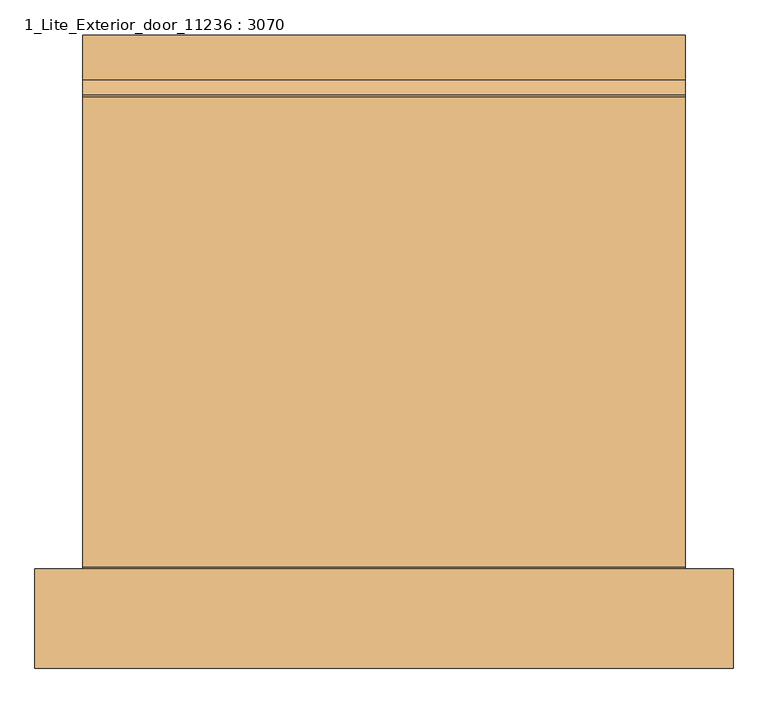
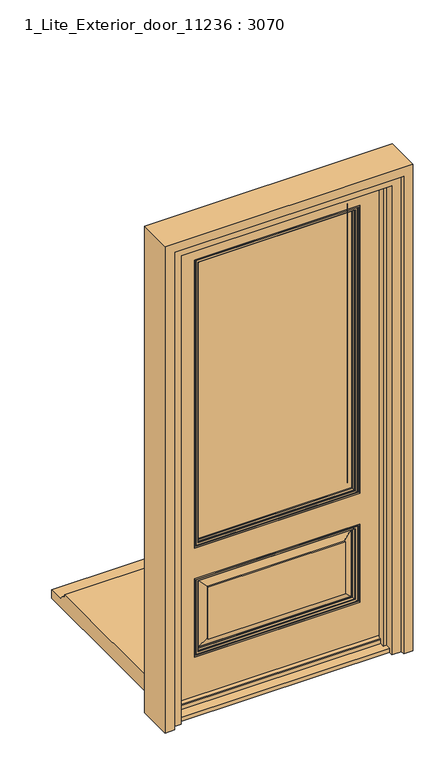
"""IFC4 building model written with IfcOpenShell, lengths in millimetres: door geometry, 1_Lite_Exterior_door_11236 : 3070."""

from ifc_helpers import new_model, si_unit, point, frame, frame_2d, origin, place, context, project, spatial, polyline, circle_curve, ellipse_curve, trimmed, segment, composite_curve, outline, extrude, faceted_brep, source, transform, mapped, element, save
from ifc_brep_helpers import plane_surface, cylinder_surface, advanced_brep


def door_1_lite_exterior_door_11236_3070_4d0df540(model_context):
    return source(origin(), model_context, "Body", "SolidModel", [
        advanced_brep(
        [(355.6, 12.7, 723.9), (355.6, 76.2, 723.9), (355.6, 76.2, 2032.0), (355.6, 12.7, 2032.0), (349.25, 17.74112, 730.25), (349.25, 12.7, 730.25), (349.25, 12.7, 2025.65), (349.25, 17.74112, 2025.65), (346.9560106, 15.4471305, 732.5439894), (346.9560106, 15.4471305, 2023.3560106), (338.7694125, 18.2331323, 740.7305875), (338.7694125, 15.4471305, 740.7305875), (338.7694125, 15.4471305, 2015.1694125), (338.7694125, 18.2331323, 2015.1694125), (335.932591, 18.9956227, 743.567409), (337.7298548, 18.2331323, 741.7701452), (337.7298548, 18.2331323, 2014.1298548), (335.932591, 18.9956227, 2012.332591), (332.9205864, 25.9688031, 746.5794136), (332.9205864, 25.9688031, 2009.3205864), (331.1191455, 30.1625, 748.3808545), (331.1191455, 25.9688031, 748.3808545), (331.1191455, 25.9688031, 2007.5191455), (331.1191455, 30.1625, 2007.5191455), (349.25, 58.7375, 730.25), (349.25, 30.1625, 730.25), (349.25, 30.1625, 2025.65), (349.25, 58.7375, 2025.65), (331.3790349, 63.1711196, 748.1209651), (331.3790349, 58.7375, 748.1209651), (331.3790349, 58.7375, 2007.7790349), (331.3790349, 63.1711196, 2007.7790349), (332.2428928, 63.8640585, 747.2571072), (332.2428928, 63.8640585, 2008.6428928), (334.1792523, 68.8820693, 745.3207477), (333.1653174, 63.8640585, 746.3346826), (333.1653174, 63.8640585, 2009.5653174), (334.1792523, 68.8820693, 2010.5792523), (337.7518172, 72.169021, 741.7481828), (337.7518172, 72.169021, 2014.1518172), (338.7401292, 76.2, 740.7598708), (338.7401292, 72.169021, 740.7598708), (338.7401292, 72.169021, 2015.1401292), (338.7401292, 76.2, 2015.1401292), (-355.6, 76.2, 2032.0), (-355.6, 12.7, 2032.0), (-349.25, 12.7, 2025.65), (-349.25, 17.74112, 2025.65), (-346.9560106, 15.4471305, 2023.3560106), (-338.7694125, 15.4471305, 2015.1694125), (-338.7694125, 18.2331323, 2015.1694125), (-337.7298548, 18.2331323, 2014.1298548), (-335.932591, 18.9956227, 2012.332591), (-332.9205864, 25.9688031, 2009.3205864), (-331.1191455, 25.9688031, 2007.5191455), (-331.1191455, 30.1625, 2007.5191455), (-349.25, 30.1625, 2025.65), (-349.25, 58.7375, 2025.65), (-331.3790349, 58.7375, 2007.7790349), (-331.3790349, 63.1711196, 2007.7790349), (-332.2428928, 63.8640585, 2008.6428928), (-333.1653174, 63.8640585, 2009.5653174), (-334.1792523, 68.8820693, 2010.5792523), (-337.7518172, 72.169021, 2014.1518172), (-338.7401292, 72.169021, 2015.1401292), (-338.7401292, 76.2, 2015.1401292), (-355.6, 76.2, 723.9), (-355.6, 12.7, 723.9), (-349.25, 12.7, 730.25), (-349.25, 17.74112, 730.25), (-346.9560106, 15.4471305, 732.5439894), (-338.7694125, 15.4471305, 740.7305875), (-338.7694125, 18.2331323, 740.7305875), (-337.7298548, 18.2331323, 741.7701452), (-335.932591, 18.9956227, 743.567409), (-332.9205864, 25.9688031, 746.5794136), (-331.1191455, 25.9688031, 748.3808545), (-331.1191455, 30.1625, 748.3808545), (-349.25, 30.1625, 730.25), (-349.25, 58.7375, 730.25), (-331.3790349, 58.7375, 748.1209651), (-331.3790349, 63.1711196, 748.1209651), (-332.2428928, 63.8640585, 747.2571072), (-333.1653174, 63.8640585, 746.3346826), (-334.1792523, 68.8820693, 745.3207477), (-337.7518172, 72.169021, 741.7481828), (-338.7401292, 72.169021, 740.7598708), (-338.7401292, 76.2, 740.7598708)],
        [
            (0, 1),
            (1, 2),
            (2, 3),
            (3, 0),
            (4, 5),
            (5, 6),
            (6, 7),
            (7, 4),
            (8, 4),
            (7, 9),
            (9, 8),
            (10, 11),
            (11, 12),
            (12, 13),
            (13, 10),
            (14, 15, ellipse_curve(frame((337.7264752, 20.724574, 741.7735248), z_axis=(0.7071067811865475, 0.0, 0.7071067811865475), x_axis=(0.7071067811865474, 0.0, -0.7071067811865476)), 3.5234339, 2.491444)),
            (15, 16),
            (16, 17, ellipse_curve(frame((337.7264752, 20.724574, 2014.1264752), z_axis=(0.7071067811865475, 0.0, -0.7071067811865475), x_axis=(-0.7071067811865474, 0.0, -0.7071067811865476)), 3.5234339, 2.491444)),
            (17, 14),
            (18, 14, ellipse_curve(frame((343.4741522, 26.3902292, 736.0258478), z_axis=(0.7071067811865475, 0.0, 0.7071067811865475), x_axis=(0.7071067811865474, 0.0, -0.7071067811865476)), 14.9368906, 10.5619766)),
            (17, 19, ellipse_curve(frame((343.4741522, 26.3902292, 2019.8741522), z_axis=(0.7071067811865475, 0.0, -0.7071067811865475), x_axis=(-0.7071067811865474, 0.0, -0.7071067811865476)), 14.9368906, 10.5619766)),
            (19, 18),
            (20, 21),
            (21, 22),
            (22, 23),
            (23, 20),
            (24, 25),
            (25, 26),
            (26, 27),
            (27, 24),
            (28, 29),
            (29, 30),
            (30, 31),
            (31, 28),
            (32, 28, ellipse_curve(frame((332.2149829, 63.0139154, 747.2850171), z_axis=(0.7071067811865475, 0.0, 0.7071067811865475), x_axis=(0.7071067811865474, 0.0, -0.7071067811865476)), 1.2029316, 0.8506011)),
            (31, 33, ellipse_curve(frame((332.2149829, 63.0139154, 2008.6149829), z_axis=(0.7071067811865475, 0.0, -0.7071067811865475), x_axis=(-0.7071067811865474, 0.0, -0.7071067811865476)), 1.2029316, 0.8506011)),
            (33, 32),
            (34, 35, ellipse_curve(frame((345.7149258, 63.9397383, 733.7850742), z_axis=(0.7071067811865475, 0.0, 0.7071067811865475), x_axis=(0.7071067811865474, 0.0, -0.7071067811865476)), 17.7481492, 12.5498367)),
            (35, 36),
            (36, 37, ellipse_curve(frame((345.7149258, 63.9397383, 2022.1149258), z_axis=(0.7071067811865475, 0.0, -0.7071067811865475), x_axis=(-0.7071067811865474, 0.0, -0.7071067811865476)), 17.7481492, 12.5498367)),
            (37, 34),
            (38, 34, ellipse_curve(frame((339.7868204, 66.3722163, 739.7131796), z_axis=(0.7071067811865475, 0.0, 0.7071067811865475), x_axis=(0.7071067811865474, 0.0, -0.7071067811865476)), 8.6884041, 6.1436294)),
            (37, 39, ellipse_curve(frame((339.7868204, 66.3722163, 2016.1868204), z_axis=(0.7071067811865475, 0.0, -0.7071067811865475), x_axis=(-0.7071067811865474, 0.0, -0.7071067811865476)), 8.6884041, 6.1436294)),
            (39, 38),
            (40, 41),
            (41, 42),
            (42, 43),
            (43, 40),
            (2, 44),
            (44, 45),
            (45, 3),
            (6, 46),
            (46, 47),
            (47, 7),
            (47, 48),
            (48, 9),
            (12, 49),
            (49, 50),
            (50, 13),
            (16, 51),
            (51, 52, ellipse_curve(frame((-337.7264752, 20.724574, 2014.1264752), z_axis=(0.7071067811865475, 0.0, 0.7071067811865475), x_axis=(0.7071067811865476, 0.0, -0.7071067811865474)), 3.5234339, 2.491444)),
            (52, 17),
            (52, 53, ellipse_curve(frame((-343.4741522, 26.3902292, 2019.8741522), z_axis=(0.7071067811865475, 0.0, 0.7071067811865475), x_axis=(0.7071067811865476, 0.0, -0.7071067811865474)), 14.9368906, 10.5619766)),
            (53, 19),
            (22, 54),
            (54, 55),
            (55, 23),
            (26, 56),
            (56, 57),
            (57, 27),
            (30, 58),
            (58, 59),
            (59, 31),
            (59, 60, ellipse_curve(frame((-332.2149829, 63.0139154, 2008.6149829), z_axis=(0.7071067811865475, 0.0, 0.7071067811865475), x_axis=(0.7071067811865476, 0.0, -0.7071067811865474)), 1.2029316, 0.8506011)),
            (60, 33),
            (36, 61),
            (61, 62, ellipse_curve(frame((-345.7149258, 63.9397383, 2022.1149258), z_axis=(0.7071067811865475, 0.0, 0.7071067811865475), x_axis=(0.7071067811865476, 0.0, -0.7071067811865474)), 17.7481492, 12.5498367)),
            (62, 37),
            (62, 63, ellipse_curve(frame((-339.7868204, 66.3722163, 2016.1868204), z_axis=(0.7071067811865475, 0.0, 0.7071067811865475), x_axis=(0.7071067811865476, 0.0, -0.7071067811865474)), 8.6884041, 6.1436294)),
            (63, 39),
            (42, 64),
            (64, 65),
            (65, 43),
            (44, 66),
            (66, 67),
            (67, 45),
            (46, 68),
            (68, 69),
            (69, 47),
            (69, 70),
            (70, 48),
            (49, 71),
            (71, 72),
            (72, 50),
            (51, 73),
            (73, 74, ellipse_curve(frame((-337.7264752, 20.724574, 741.7735248), z_axis=(-0.7071067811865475, 0.0, 0.7071067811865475), x_axis=(0.7071067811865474, 0.0, 0.7071067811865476)), 3.5234339, 2.491444)),
            (74, 52),
            (74, 75, ellipse_curve(frame((-343.4741522, 26.3902292, 736.0258478), z_axis=(-0.7071067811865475, 0.0, 0.7071067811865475), x_axis=(0.7071067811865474, 0.0, 0.7071067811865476)), 14.9368906, 10.5619766)),
            (75, 53),
            (54, 76),
            (76, 77),
            (77, 55),
            (56, 78),
            (78, 79),
            (79, 57),
            (58, 80),
            (80, 81),
            (81, 59),
            (81, 82, ellipse_curve(frame((-332.2149829, 63.0139154, 747.2850171), z_axis=(-0.7071067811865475, 0.0, 0.7071067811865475), x_axis=(0.7071067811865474, 0.0, 0.7071067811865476)), 1.2029316, 0.8506011)),
            (82, 60),
            (61, 83),
            (83, 84, ellipse_curve(frame((-345.7149258, 63.9397383, 733.7850742), z_axis=(-0.7071067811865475, 0.0, 0.7071067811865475), x_axis=(0.7071067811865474, 0.0, 0.7071067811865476)), 17.7481492, 12.5498367)),
            (84, 62),
            (84, 85, ellipse_curve(frame((-339.7868204, 66.3722163, 739.7131796), z_axis=(-0.7071067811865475, 0.0, 0.7071067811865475), x_axis=(0.7071067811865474, 0.0, 0.7071067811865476)), 8.6884041, 6.1436294)),
            (85, 63),
            (64, 86),
            (86, 87),
            (87, 65),
            (1, 66),
            (87, 40),
            (0, 67),
            (5, 68),
            (4, 69),
            (8, 70),
            (11, 71),
            (10, 72),
            (15, 73),
            (14, 74),
            (18, 75),
            (21, 76),
            (20, 77),
            (25, 78),
            (24, 79),
            (29, 80),
            (28, 81),
            (32, 82),
            (35, 83),
            (34, 84),
            (38, 85),
            (41, 86),
        ],
        [
            plane_surface(frame((355.6, 76.2, 723.9), z_axis=(1.0, 0.0, 0.0), x_axis=(0.0, 0.0, 1.0))),
            plane_surface(frame((349.25, 12.7, 730.25), z_axis=(-1.0, 0.0, 0.0), x_axis=(0.0, 0.0, 1.0))),
            plane_surface(frame((349.25, 17.74112, 730.25), z_axis=(0.7071067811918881, -0.707106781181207, 0.0), x_axis=(0.0, 0.0, 1.0))),
            plane_surface(frame((338.7694125, 15.4471305, 740.7305875), z_axis=(-1.0, 0.0, 0.0), x_axis=(0.0, 0.0, 1.0))),
            cylinder_surface(frame((337.7264752, 20.724574, 723.9), z_axis=(0.0, 0.0, -1.0), x_axis=(0.0, -1.0, 0.0)), 2.491444),
            cylinder_surface(frame((343.4741522, 26.3902292, 723.9), z_axis=(0.0, 0.0, -1.0), x_axis=(0.0, -1.0, 0.0)), 10.5619766),
            plane_surface(frame((331.1191455, 25.9688031, 748.3808545), z_axis=(-1.0, 0.0, 0.0), x_axis=(0.0, 0.0, 1.0))),
            plane_surface(frame((349.25, 30.1625, 730.25), z_axis=(-1.0, 0.0, 0.0), x_axis=(0.0, 0.0, 1.0))),
            plane_surface(frame((331.3790349, 58.7375, 748.1209651), z_axis=(-1.0, 0.0, 0.0), x_axis=(0.0, 0.0, 1.0))),
            cylinder_surface(frame((332.2149829, 63.0139154, 723.9), z_axis=(0.0, 0.0, -1.0), x_axis=(0.0, -1.0, 0.0)), 0.8506011),
            cylinder_surface(frame((345.7149258, 63.9397383, 723.9), z_axis=(0.0, 0.0, -1.0), x_axis=(0.0, -1.0, 0.0)), 12.5498367),
            cylinder_surface(frame((339.7868204, 66.3722163, 723.9), z_axis=(0.0, 0.0, -1.0), x_axis=(0.0, -1.0, 0.0)), 6.1436294),
            plane_surface(frame((338.7401292, 72.169021, 740.7598708), z_axis=(-1.0, 0.0, 0.0), x_axis=(0.0, 0.0, 1.0))),
            plane_surface(frame((355.6, 76.2, 2032.0), z_axis=(0.0, 0.0, 1.0), x_axis=(-1.0, 0.0, 0.0))),
            plane_surface(frame((349.25, 12.7, 2025.65), z_axis=(0.0, 0.0, -1.0), x_axis=(-1.0, 0.0, 0.0))),
            plane_surface(frame((349.25, 17.74112, 2025.65), z_axis=(0.0, -0.707106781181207, 0.7071067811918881), x_axis=(-1.0, 0.0, 0.0))),
            plane_surface(frame((338.7694125, 15.4471305, 2015.1694125), z_axis=(0.0, 0.0, -1.0), x_axis=(-1.0, 0.0, 0.0))),
            cylinder_surface(frame((355.6, 20.724574, 2014.1264752), z_axis=(1.0, 0.0, 0.0), x_axis=(0.0, -1.0, 0.0)), 2.491444),
            cylinder_surface(frame((355.6, 26.3902292, 2019.8741522), z_axis=(1.0, 0.0, 0.0), x_axis=(0.0, -1.0, 0.0)), 10.5619766),
            plane_surface(frame((331.1191455, 25.9688031, 2007.5191455), z_axis=(0.0, 0.0, -1.0), x_axis=(-1.0, 0.0, 0.0))),
            plane_surface(frame((349.25, 30.1625, 2025.65), z_axis=(0.0, 0.0, -1.0), x_axis=(-1.0, 0.0, 0.0))),
            plane_surface(frame((331.3790349, 58.7375, 2007.7790349), z_axis=(0.0, 0.0, -1.0), x_axis=(-1.0, 0.0, 0.0))),
            cylinder_surface(frame((355.6, 63.0139154, 2008.6149829), z_axis=(1.0, 0.0, 0.0), x_axis=(0.0, -1.0, 0.0)), 0.8506011),
            cylinder_surface(frame((355.6, 63.9397383, 2022.1149258), z_axis=(1.0, 0.0, 0.0), x_axis=(0.0, -1.0, 0.0)), 12.5498367),
            cylinder_surface(frame((355.6, 66.3722163, 2016.1868204), z_axis=(1.0, 0.0, 0.0), x_axis=(0.0, -1.0, 0.0)), 6.1436294),
            plane_surface(frame((338.7401292, 72.169021, 2015.1401292), z_axis=(0.0, 0.0, -1.0), x_axis=(-1.0, 0.0, 0.0))),
            plane_surface(frame((-355.6, 76.2, 2032.0), z_axis=(-1.0, 0.0, 0.0), x_axis=(0.0, 0.0, -1.0))),
            plane_surface(frame((-349.25, 12.7, 2025.65), z_axis=(1.0, 0.0, 0.0), x_axis=(0.0, 0.0, -1.0))),
            plane_surface(frame((-349.25, 17.74112, 2025.65), z_axis=(-0.7071067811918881, -0.707106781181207, 0.0), x_axis=(0.0, 0.0, -1.0))),
            plane_surface(frame((-338.7694125, 15.4471305, 2015.1694125), z_axis=(1.0, 0.0, 0.0), x_axis=(0.0, 0.0, -1.0))),
            cylinder_surface(frame((-337.7264752, 20.724574, 2032.0), z_axis=(0.0, 0.0, 1.0), x_axis=(0.0, -1.0, 0.0)), 2.491444),
            cylinder_surface(frame((-343.4741522, 26.3902292, 2032.0), z_axis=(0.0, 0.0, 1.0), x_axis=(0.0, -1.0, 0.0)), 10.5619766),
            plane_surface(frame((-331.1191455, 25.9688031, 2007.5191455), z_axis=(1.0, 0.0, 0.0), x_axis=(0.0, 0.0, -1.0))),
            plane_surface(frame((-349.25, 30.1625, 2025.65), z_axis=(1.0, 0.0, 0.0), x_axis=(0.0, 0.0, -1.0))),
            plane_surface(frame((-331.3790349, 58.7375, 2007.7790349), z_axis=(1.0, 0.0, 0.0), x_axis=(0.0, 0.0, -1.0))),
            cylinder_surface(frame((-332.2149829, 63.0139154, 2032.0), z_axis=(0.0, 0.0, 1.0), x_axis=(0.0, -1.0, 0.0)), 0.8506011),
            cylinder_surface(frame((-345.7149258, 63.9397383, 2032.0), z_axis=(0.0, 0.0, 1.0), x_axis=(0.0, -1.0, 0.0)), 12.5498367),
            cylinder_surface(frame((-339.7868204, 66.3722163, 2032.0), z_axis=(0.0, 0.0, 1.0), x_axis=(0.0, -1.0, 0.0)), 6.1436294),
            plane_surface(frame((-338.7401292, 72.169021, 2015.1401292), z_axis=(1.0, 0.0, 0.0), x_axis=(0.0, 0.0, -1.0))),
            plane_surface(frame((-338.7401292, 76.2, 740.7598708), z_axis=(0.0, 1.0, 0.0), x_axis=(1.0, 0.0, 0.0))),
            plane_surface(frame((-355.6, 76.2, 723.9), z_axis=(0.0, 0.0, -1.0), x_axis=(1.0, 0.0, 0.0))),
            plane_surface(frame((-355.6, 12.7, 723.9), z_axis=(0.0, -1.0, 0.0), x_axis=(1.0, 0.0, 0.0))),
            plane_surface(frame((-349.25, 12.7, 730.25), z_axis=(0.0, 0.0, 1.0), x_axis=(1.0, 0.0, 0.0))),
            plane_surface(frame((-349.25, 17.74112, 730.25), z_axis=(0.0, -0.707106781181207, -0.7071067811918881), x_axis=(1.0, 0.0, 0.0))),
            plane_surface(frame((-346.9560106, 15.4471305, 732.5439894), z_axis=(0.0, -1.0, 0.0), x_axis=(1.0, 0.0, 0.0))),
            plane_surface(frame((-338.7694125, 15.4471305, 740.7305875), z_axis=(0.0, 0.0, 1.0), x_axis=(1.0, 0.0, 0.0))),
            plane_surface(frame((-338.7694125, 18.2331323, 740.7305875), z_axis=(0.0, -1.0, 0.0), x_axis=(1.0, 0.0, 0.0))),
            cylinder_surface(frame((-355.6, 20.724574, 741.7735248), z_axis=(-1.0, 0.0, 0.0), x_axis=(0.0, -1.0, 0.0)), 2.491444),
            cylinder_surface(frame((-355.6, 26.3902292, 736.0258478), z_axis=(-1.0, 0.0, 0.0), x_axis=(0.0, -1.0, 0.0)), 10.5619766),
            plane_surface(frame((-332.9205864, 25.9688031, 746.5794136), z_axis=(0.0, -1.0, 0.0), x_axis=(1.0, 0.0, 0.0))),
            plane_surface(frame((-331.1191455, 25.9688031, 748.3808545), z_axis=(0.0, 0.0, 1.0), x_axis=(1.0, 0.0, 0.0))),
            plane_surface(frame((-331.1191455, 30.1625, 748.3808545), z_axis=(0.0, 1.0, 0.0), x_axis=(1.0, 0.0, 0.0))),
            plane_surface(frame((-349.25, 30.1625, 730.25), z_axis=(0.0, 0.0, 1.0), x_axis=(1.0, 0.0, 0.0))),
            plane_surface(frame((-349.25, 58.7375, 730.25), z_axis=(0.0, -1.0, 0.0), x_axis=(1.0, 0.0, 0.0))),
            plane_surface(frame((-331.3790349, 58.7375, 748.1209651), z_axis=(0.0, 0.0, 1.0), x_axis=(1.0, 0.0, 0.0))),
            cylinder_surface(frame((-355.6, 63.0139154, 747.2850171), z_axis=(-1.0, 0.0, 0.0), x_axis=(0.0, -1.0, 0.0)), 0.8506011),
            plane_surface(frame((-332.2428928, 63.8640585, 747.2571072), z_axis=(0.0, 1.0, 0.0), x_axis=(1.0, 0.0, 0.0))),
            cylinder_surface(frame((-355.6, 63.9397383, 733.7850742), z_axis=(-1.0, 0.0, 0.0), x_axis=(0.0, -1.0, 0.0)), 12.5498367),
            cylinder_surface(frame((-355.6, 66.3722163, 739.7131796), z_axis=(-1.0, 0.0, 0.0), x_axis=(0.0, -1.0, 0.0)), 6.1436294),
            plane_surface(frame((-337.7518172, 72.169021, 741.7481828), z_axis=(0.0, 1.0, 0.0), x_axis=(1.0, 0.0, 0.0))),
            plane_surface(frame((-338.7401292, 72.169021, 740.7598708), z_axis=(0.0, 0.0, 1.0), x_axis=(1.0, 0.0, 0.0))),
        ],
        [
            (0, [[1, 2, 3, 4]]),
            (1, [[5, 6, 7, 8]]),
            (2, [[9, -8, 10, 11]]),
            (3, [[12, 13, 14, 15]]),
            (4, [[16, 17, 18, 19]]),
            (5, [[20, -19, 21, 22]]),
            (6, [[23, 24, 25, 26]]),
            (7, [[27, 28, 29, 30]]),
            (8, [[31, 32, 33, 34]]),
            (9, [[35, -34, 36, 37]]),
            (10, [[38, 39, 40, 41]]),
            (11, [[42, -41, 43, 44]]),
            (12, [[45, 46, 47, 48]]),
            (13, [[-3, 49, 50, 51]]),
            (14, [[-7, 52, 53, 54]]),
            (15, [[-10, -54, 55, 56]]),
            (16, [[-14, 57, 58, 59]]),
            (17, [[-18, 60, 61, 62]]),
            (18, [[-21, -62, 63, 64]]),
            (19, [[-25, 65, 66, 67]]),
            (20, [[-29, 68, 69, 70]]),
            (21, [[-33, 71, 72, 73]]),
            (22, [[-36, -73, 74, 75]]),
            (23, [[-40, 76, 77, 78]]),
            (24, [[-43, -78, 79, 80]]),
            (25, [[-47, 81, 82, 83]]),
            (26, [[-50, 84, 85, 86]]),
            (27, [[-53, 87, 88, 89]]),
            (28, [[-55, -89, 90, 91]]),
            (29, [[-58, 92, 93, 94]]),
            (30, [[-61, 95, 96, 97]]),
            (31, [[-63, -97, 98, 99]]),
            (32, [[-66, 100, 101, 102]]),
            (33, [[-69, 103, 104, 105]]),
            (34, [[-72, 106, 107, 108]]),
            (35, [[-74, -108, 109, 110]]),
            (36, [[-77, 111, 112, 113]]),
            (37, [[-79, -113, 114, 115]]),
            (38, [[-82, 116, 117, 118]]),
            (39, [[119, -84, -49, -2], [-83, -118, 120, -48]]),
            (40, [[-85, -119, -1, 121]]),
            (41, [[-51, -86, -121, -4], [122, -87, -52, -6]]),
            (42, [[-88, -122, -5, 123]]),
            (43, [[-90, -123, -9, 124]]),
            (44, [[-56, -91, -124, -11], [125, -92, -57, -13]]),
            (45, [[-93, -125, -12, 126]]),
            (46, [[-59, -94, -126, -15], [127, -95, -60, -17]]),
            (47, [[-96, -127, -16, 128]]),
            (48, [[-98, -128, -20, 129]]),
            (49, [[-64, -99, -129, -22], [130, -100, -65, -24]]),
            (50, [[-101, -130, -23, 131]]),
            (51, [[132, -103, -68, -28], [-67, -102, -131, -26]]),
            (52, [[-104, -132, -27, 133]]),
            (53, [[-70, -105, -133, -30], [134, -106, -71, -32]]),
            (54, [[-107, -134, -31, 135]]),
            (55, [[-109, -135, -35, 136]]),
            (56, [[137, -111, -76, -39], [-75, -110, -136, -37]]),
            (57, [[-112, -137, -38, 138]]),
            (58, [[-114, -138, -42, 139]]),
            (59, [[140, -116, -81, -46], [-80, -115, -139, -44]]),
            (60, [[-117, -140, -45, -120]]),
        ],
    ),
        advanced_brep(
        [(-295.275, 21.7305567, 288.925), (-295.275, 68.5309484, 288.925), (-295.275, 68.5309484, 523.875), (-295.275, 21.7305567, 523.875), (-328.2530406, 30.8447038, 255.9469594), (-328.2530406, 30.8447038, 556.8530406), (-331.1191455, 26.6510069, 253.0808545), (-331.1191455, 30.8447038, 253.0808545), (-331.1191455, 30.8447038, 559.7191455), (-331.1191455, 26.6510069, 559.7191455), (-335.932591, 19.6778265, 248.267409), (-332.9205864, 26.6510069, 251.2794136), (-332.9205864, 26.6510069, 561.5205864), (-335.932591, 19.6778265, 564.532591), (-337.7298547, 18.9153362, 246.4701453), (-337.7298547, 18.9153362, 566.3298547), (-338.7694125, 16.1293344, 245.4305875), (-338.7694125, 18.9153362, 245.4305875), (-338.7694125, 18.9153362, 567.3694125), (-338.7694125, 16.1293344, 567.3694125), (-349.25, 18.4233238, 234.95), (-346.9560106, 16.1293344, 237.2439894), (-346.9560106, 16.1293344, 575.5560106), (-349.25, 18.4233238, 577.85), (-349.25, 12.7, 234.95), (-349.25, 12.7, 577.85), (-355.6, 76.2, 228.6), (-355.6, 12.7, 228.6), (-355.6, 12.7, 584.2), (-355.6, 76.2, 584.2), (-338.7401292, 72.8512248, 245.4598708), (-338.7401292, 76.2, 245.4598708), (-338.7401292, 76.2, 567.3401292), (-338.7401292, 72.8512248, 567.3401292), (-334.1792523, 69.5642731, 250.0207477), (-337.7518172, 72.8512248, 246.4481828), (-337.7518172, 72.8512248, 566.3518172), (-334.1792523, 69.5642731, 562.7792523), (-333.1653174, 64.5462623, 251.0346826), (-333.1653174, 64.5462623, 561.7653174), (-331.3790349, 63.8533234, 252.8209651), (-332.2428928, 64.5462623, 251.9571072), (-332.2428928, 64.5462623, 560.8428928), (-331.3790349, 63.8533234, 559.9790349), (-331.3790349, 59.4197038, 252.8209651), (-331.3790349, 59.4197038, 559.9790349), (-328.7179133, 59.4197038, 255.4820867), (-328.7179133, 59.4197038, 557.3179133), (295.275, 68.5309484, 523.875), (295.275, 21.7305567, 523.875), (328.2530406, 30.8447038, 556.8530406), (331.1191455, 30.8447038, 559.7191455), (331.1191455, 26.6510069, 559.7191455), (332.9205864, 26.6510069, 561.5205864), (335.932591, 19.6778265, 564.532591), (337.7298547, 18.9153362, 566.3298547), (338.7694125, 18.9153362, 567.3694125), (338.7694125, 16.1293344, 567.3694125), (346.9560106, 16.1293344, 575.5560106), (349.25, 18.4233238, 577.85), (349.25, 12.7, 577.85), (355.6, 12.7, 584.2), (355.6, 76.2, 584.2), (338.7401292, 76.2, 567.3401292), (338.7401292, 72.8512248, 567.3401292), (337.7518172, 72.8512248, 566.3518172), (334.1792523, 69.5642731, 562.7792523), (333.1653174, 64.5462623, 561.7653174), (332.2428928, 64.5462623, 560.8428928), (331.3790349, 63.8533234, 559.9790349), (331.3790349, 59.4197038, 559.9790349), (328.7179133, 59.4197038, 557.3179133), (295.275, 68.5309484, 288.925), (295.275, 21.7305567, 288.925), (328.2530406, 30.8447038, 255.9469594), (331.1191455, 30.8447038, 253.0808545), (331.1191455, 26.6510069, 253.0808545), (332.9205864, 26.6510069, 251.2794136), (335.932591, 19.6778265, 248.267409), (337.7298547, 18.9153362, 246.4701453), (338.7694125, 18.9153362, 245.4305875), (338.7694125, 16.1293344, 245.4305875), (346.9560106, 16.1293344, 237.2439894), (349.25, 18.4233238, 234.95), (349.25, 12.7, 234.95), (355.6, 12.7, 228.6), (355.6, 76.2, 228.6), (338.7401292, 76.2, 245.4598708), (338.7401292, 72.8512248, 245.4598708), (337.7518172, 72.8512248, 246.4481828), (334.1792523, 69.5642731, 250.0207477), (333.1653174, 64.5462623, 251.0346826), (332.2428928, 64.5462623, 251.9571072), (331.3790349, 63.8533234, 252.8209651), (331.3790349, 59.4197038, 252.8209651), (328.7179133, 59.4197038, 255.4820867)],
        [
            (0, 1),
            (1, 2),
            (2, 3),
            (3, 0),
            (4, 0),
            (3, 5),
            (5, 4),
            (6, 7),
            (7, 8),
            (8, 9),
            (9, 6),
            (10, 11, ellipse_curve(frame((-343.4741522, 27.072433, 240.7258478), z_axis=(-0.7071067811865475, 0.0, 0.7071067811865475), x_axis=(-0.7071067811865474, 0.0, -0.7071067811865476)), 14.9368906, 10.5619766)),
            (11, 12),
            (12, 13, ellipse_curve(frame((-343.4741522, 27.072433, 572.0741522), z_axis=(-0.7071067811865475, 0.0, -0.7071067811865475), x_axis=(0.7071067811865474, 0.0, -0.7071067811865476)), 14.9368906, 10.5619766)),
            (13, 10),
            (14, 10, ellipse_curve(frame((-337.7264752, 21.4067779, 246.4735248), z_axis=(-0.7071067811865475, 0.0, 0.7071067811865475), x_axis=(-0.7071067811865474, 0.0, -0.7071067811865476)), 3.5234339, 2.491444)),
            (13, 15, ellipse_curve(frame((-337.7264752, 21.4067779, 566.3264752), z_axis=(-0.7071067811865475, 0.0, -0.7071067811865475), x_axis=(0.7071067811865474, 0.0, -0.7071067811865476)), 3.5234339, 2.491444)),
            (15, 14),
            (16, 17),
            (17, 18),
            (18, 19),
            (19, 16),
            (20, 21),
            (21, 22),
            (22, 23),
            (23, 20),
            (24, 20),
            (23, 25),
            (25, 24),
            (26, 27),
            (27, 28),
            (28, 29),
            (29, 26),
            (30, 31),
            (31, 32),
            (32, 33),
            (33, 30),
            (34, 35, ellipse_curve(frame((-339.7868204, 67.0544201, 244.4131796), z_axis=(-0.7071067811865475, 0.0, 0.7071067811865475), x_axis=(-0.7071067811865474, 0.0, -0.7071067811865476)), 8.6884041, 6.1436294)),
            (35, 36),
            (36, 37, ellipse_curve(frame((-339.7868204, 67.0544201, 568.3868204), z_axis=(-0.7071067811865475, 0.0, -0.7071067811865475), x_axis=(0.7071067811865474, 0.0, -0.7071067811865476)), 8.6884041, 6.1436294)),
            (37, 34),
            (38, 34, ellipse_curve(frame((-345.7149258, 64.6219421, 238.4850742), z_axis=(-0.7071067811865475, 0.0, 0.7071067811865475), x_axis=(-0.7071067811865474, 0.0, -0.7071067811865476)), 17.7481492, 12.5498367)),
            (37, 39, ellipse_curve(frame((-345.7149258, 64.6219421, 574.3149258), z_axis=(-0.7071067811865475, 0.0, -0.7071067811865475), x_axis=(0.7071067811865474, 0.0, -0.7071067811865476)), 17.7481492, 12.5498367)),
            (39, 38),
            (40, 41, ellipse_curve(frame((-332.2149829, 63.6961192, 251.9850171), z_axis=(-0.7071067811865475, 0.0, 0.7071067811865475), x_axis=(-0.7071067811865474, 0.0, -0.7071067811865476)), 1.2029316, 0.8506011)),
            (41, 42),
            (42, 43, ellipse_curve(frame((-332.2149829, 63.6961192, 560.8149829), z_axis=(-0.7071067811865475, 0.0, -0.7071067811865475), x_axis=(0.7071067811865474, 0.0, -0.7071067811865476)), 1.2029316, 0.8506011)),
            (43, 40),
            (44, 40),
            (43, 45),
            (45, 44),
            (1, 46),
            (46, 47),
            (47, 2),
            (2, 48),
            (48, 49),
            (49, 3),
            (49, 50),
            (50, 5),
            (8, 51),
            (51, 52),
            (52, 9),
            (12, 53),
            (53, 54, ellipse_curve(frame((343.4741522, 27.072433, 572.0741522), z_axis=(-0.7071067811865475, 0.0, 0.7071067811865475), x_axis=(-0.7071067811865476, 0.0, -0.7071067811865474)), 14.9368906, 10.5619766)),
            (54, 13),
            (54, 55, ellipse_curve(frame((337.7264752, 21.4067779, 566.3264752), z_axis=(-0.7071067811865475, 0.0, 0.7071067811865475), x_axis=(-0.7071067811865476, 0.0, -0.7071067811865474)), 3.5234339, 2.491444)),
            (55, 15),
            (18, 56),
            (56, 57),
            (57, 19),
            (22, 58),
            (58, 59),
            (59, 23),
            (59, 60),
            (60, 25),
            (28, 61),
            (61, 62),
            (62, 29),
            (32, 63),
            (63, 64),
            (64, 33),
            (36, 65),
            (65, 66, ellipse_curve(frame((339.7868204, 67.0544201, 568.3868204), z_axis=(-0.7071067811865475, 0.0, 0.7071067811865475), x_axis=(-0.7071067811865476, 0.0, -0.7071067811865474)), 8.6884041, 6.1436294)),
            (66, 37),
            (66, 67, ellipse_curve(frame((345.7149258, 64.6219421, 574.3149258), z_axis=(-0.7071067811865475, 0.0, 0.7071067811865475), x_axis=(-0.7071067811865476, 0.0, -0.7071067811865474)), 17.7481492, 12.5498367)),
            (67, 39),
            (42, 68),
            (68, 69, ellipse_curve(frame((332.2149829, 63.6961192, 560.8149829), z_axis=(-0.7071067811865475, 0.0, 0.7071067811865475), x_axis=(-0.7071067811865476, 0.0, -0.7071067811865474)), 1.2029316, 0.8506011)),
            (69, 43),
            (69, 70),
            (70, 45),
            (47, 71),
            (71, 48),
            (48, 72),
            (72, 73),
            (73, 49),
            (73, 74),
            (74, 50),
            (51, 75),
            (75, 76),
            (76, 52),
            (53, 77),
            (77, 78, ellipse_curve(frame((343.4741522, 27.072433, 240.7258478), z_axis=(0.7071067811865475, 0.0, 0.7071067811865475), x_axis=(-0.7071067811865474, 0.0, 0.7071067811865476)), 14.9368906, 10.5619766)),
            (78, 54),
            (78, 79, ellipse_curve(frame((337.7264752, 21.4067779, 246.4735248), z_axis=(0.7071067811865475, 0.0, 0.7071067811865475), x_axis=(-0.7071067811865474, 0.0, 0.7071067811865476)), 3.5234339, 2.491444)),
            (79, 55),
            (56, 80),
            (80, 81),
            (81, 57),
            (58, 82),
            (82, 83),
            (83, 59),
            (83, 84),
            (84, 60),
            (61, 85),
            (85, 86),
            (86, 62),
            (63, 87),
            (87, 88),
            (88, 64),
            (65, 89),
            (89, 90, ellipse_curve(frame((339.7868204, 67.0544201, 244.4131796), z_axis=(0.7071067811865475, 0.0, 0.7071067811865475), x_axis=(-0.7071067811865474, 0.0, 0.7071067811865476)), 8.6884041, 6.1436294)),
            (90, 66),
            (90, 91, ellipse_curve(frame((345.7149258, 64.6219421, 238.4850742), z_axis=(0.7071067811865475, 0.0, 0.7071067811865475), x_axis=(-0.7071067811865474, 0.0, 0.7071067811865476)), 17.7481492, 12.5498367)),
            (91, 67),
            (68, 92),
            (92, 93, ellipse_curve(frame((332.2149829, 63.6961192, 251.9850171), z_axis=(0.7071067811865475, 0.0, 0.7071067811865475), x_axis=(-0.7071067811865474, 0.0, 0.7071067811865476)), 1.2029316, 0.8506011)),
            (93, 69),
            (93, 94),
            (94, 70),
            (71, 95),
            (95, 72),
            (72, 1),
            (0, 73),
            (4, 74),
            (7, 75),
            (6, 76),
            (11, 77),
            (10, 78),
            (14, 79),
            (17, 80),
            (16, 81),
            (21, 82),
            (20, 83),
            (24, 84),
            (27, 85),
            (26, 86),
            (31, 87),
            (30, 88),
            (35, 89),
            (34, 90),
            (38, 91),
            (41, 92),
            (40, 93),
            (44, 94),
            (46, 95),
        ],
        [
            plane_surface(frame((-295.275, 68.5309484, 288.925), z_axis=(1.0, 0.0, 0.0), x_axis=(0.0, 0.0, 1.0))),
            plane_surface(frame((-295.275, 21.7305567, 288.925), z_axis=(-0.2663840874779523, -0.9638669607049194, 0.0), x_axis=(0.0, 0.0, 1.0))),
            plane_surface(frame((-331.1191455, 30.8447038, 253.0808545), z_axis=(1.0, 0.0, 0.0), x_axis=(0.0, 0.0, 1.0))),
            cylinder_surface(frame((-343.4741522, 27.072433, 228.6), z_axis=(0.0, 0.0, -1.0), x_axis=(-1.0, 0.0, 0.0)), 10.5619766),
            cylinder_surface(frame((-337.7264752, 21.4067779, 228.6), z_axis=(0.0, 0.0, -1.0), x_axis=(-1.0, 0.0, 0.0)), 2.491444),
            plane_surface(frame((-338.7694125, 18.9153362, 245.4305875), z_axis=(1.0, 0.0, 0.0), x_axis=(0.0, 0.0, 1.0))),
            plane_surface(frame((-346.9560106, 16.1293344, 237.2439894), z_axis=(-0.7071067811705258, -0.7071067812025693, 0.0), x_axis=(0.0, 0.0, 1.0))),
            plane_surface(frame((-349.25, 18.4233238, 234.95), z_axis=(1.0, 0.0, 0.0), x_axis=(0.0, 0.0, 1.0))),
            plane_surface(frame((-355.6, 12.7, 228.6), z_axis=(-1.0, 0.0, 0.0), x_axis=(0.0, 0.0, 1.0))),
            plane_surface(frame((-338.7401292, 76.2, 245.4598708), z_axis=(1.0, 0.0, 0.0), x_axis=(0.0, 0.0, 1.0))),
            cylinder_surface(frame((-339.7868204, 67.0544201, 228.6), z_axis=(0.0, 0.0, -1.0), x_axis=(-1.0, 0.0, 0.0)), 6.1436294),
            cylinder_surface(frame((-345.7149258, 64.6219421, 228.6), z_axis=(0.0, 0.0, -1.0), x_axis=(-1.0, 0.0, 0.0)), 12.5498367),
            cylinder_surface(frame((-332.2149829, 63.6961192, 228.6), z_axis=(0.0, 0.0, -1.0), x_axis=(-1.0, 0.0, 0.0)), 0.8506011),
            plane_surface(frame((-331.3790349, 63.8533234, 252.8209651), z_axis=(1.0, 0.0, 0.0), x_axis=(0.0, 0.0, 1.0))),
            plane_surface(frame((-328.7179133, 59.4197038, 255.4820867), z_axis=(-0.2628609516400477, 0.9648337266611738, 0.0), x_axis=(0.0, 0.0, 1.0))),
            plane_surface(frame((-295.275, 68.5309484, 523.875), z_axis=(0.0, 0.0, -1.0), x_axis=(1.0, 0.0, 0.0))),
            plane_surface(frame((-295.275, 21.7305567, 523.875), z_axis=(0.0, -0.9638669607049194, 0.2663840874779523), x_axis=(1.0, 0.0, 0.0))),
            plane_surface(frame((-331.1191455, 30.8447038, 559.7191455), z_axis=(0.0, 0.0, -1.0), x_axis=(1.0, 0.0, 0.0))),
            cylinder_surface(frame((-355.6, 27.072433, 572.0741522), z_axis=(-1.0, 0.0, 0.0), x_axis=(0.0, 0.0, 1.0)), 10.5619766),
            cylinder_surface(frame((-355.6, 21.4067779, 566.3264752), z_axis=(-1.0, 0.0, 0.0), x_axis=(0.0, 0.0, 1.0)), 2.491444),
            plane_surface(frame((-338.7694125, 18.9153362, 567.3694125), z_axis=(0.0, 0.0, -1.0), x_axis=(1.0, 0.0, 0.0))),
            plane_surface(frame((-346.9560106, 16.1293344, 575.5560106), z_axis=(0.0, -0.7071067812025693, 0.7071067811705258), x_axis=(1.0, 0.0, 0.0))),
            plane_surface(frame((-349.25, 18.4233238, 577.85), z_axis=(0.0, 0.0, -1.0), x_axis=(1.0, 0.0, 0.0))),
            plane_surface(frame((-355.6, 12.7, 584.2), z_axis=(0.0, 0.0, 1.0), x_axis=(1.0, 0.0, 0.0))),
            plane_surface(frame((-338.7401292, 76.2, 567.3401292), z_axis=(0.0, 0.0, -1.0), x_axis=(1.0, 0.0, 0.0))),
            cylinder_surface(frame((-355.6, 67.0544201, 568.3868204), z_axis=(-1.0, 0.0, 0.0), x_axis=(0.0, 0.0, 1.0)), 6.1436294),
            cylinder_surface(frame((-355.6, 64.6219421, 574.3149258), z_axis=(-1.0, 0.0, 0.0), x_axis=(0.0, 0.0, 1.0)), 12.5498367),
            cylinder_surface(frame((-355.6, 63.6961192, 560.8149829), z_axis=(-1.0, 0.0, 0.0), x_axis=(0.0, 0.0, 1.0)), 0.8506011),
            plane_surface(frame((-331.3790349, 63.8533234, 559.9790349), z_axis=(0.0, 0.0, -1.0), x_axis=(1.0, 0.0, 0.0))),
            plane_surface(frame((-328.7179133, 59.4197038, 557.3179133), z_axis=(0.0, 0.9648337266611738, 0.2628609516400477), x_axis=(1.0, 0.0, 0.0))),
            plane_surface(frame((295.275, 68.5309484, 523.875), z_axis=(-1.0, 0.0, 0.0), x_axis=(0.0, 0.0, -1.0))),
            plane_surface(frame((295.275, 21.7305567, 523.875), z_axis=(0.2663840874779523, -0.9638669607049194, 0.0), x_axis=(0.0, 0.0, -1.0))),
            plane_surface(frame((331.1191455, 30.8447038, 559.7191455), z_axis=(-1.0, 0.0, 0.0), x_axis=(0.0, 0.0, -1.0))),
            cylinder_surface(frame((343.4741522, 27.072433, 584.2), z_axis=(0.0, 0.0, 1.0), x_axis=(1.0, 0.0, 0.0)), 10.5619766),
            cylinder_surface(frame((337.7264752, 21.4067779, 584.2), z_axis=(0.0, 0.0, 1.0), x_axis=(1.0, 0.0, 0.0)), 2.491444),
            plane_surface(frame((338.7694125, 18.9153362, 567.3694125), z_axis=(-1.0, 0.0, 0.0), x_axis=(0.0, 0.0, -1.0))),
            plane_surface(frame((346.9560106, 16.1293344, 575.5560106), z_axis=(0.7071067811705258, -0.7071067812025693, 0.0), x_axis=(0.0, 0.0, -1.0))),
            plane_surface(frame((349.25, 18.4233238, 577.85), z_axis=(-1.0, 0.0, 0.0), x_axis=(0.0, 0.0, -1.0))),
            plane_surface(frame((355.6, 12.7, 584.2), z_axis=(1.0, 0.0, 0.0), x_axis=(0.0, 0.0, -1.0))),
            plane_surface(frame((338.7401292, 76.2, 567.3401292), z_axis=(-1.0, 0.0, 0.0), x_axis=(0.0, 0.0, -1.0))),
            cylinder_surface(frame((339.7868204, 67.0544201, 584.2), z_axis=(0.0, 0.0, 1.0), x_axis=(1.0, 0.0, 0.0)), 6.1436294),
            cylinder_surface(frame((345.7149258, 64.6219421, 584.2), z_axis=(0.0, 0.0, 1.0), x_axis=(1.0, 0.0, 0.0)), 12.5498367),
            cylinder_surface(frame((332.2149829, 63.6961192, 584.2), z_axis=(0.0, 0.0, 1.0), x_axis=(1.0, 0.0, 0.0)), 0.8506011),
            plane_surface(frame((331.3790349, 63.8533234, 559.9790349), z_axis=(-1.0, 0.0, 0.0), x_axis=(0.0, 0.0, -1.0))),
            plane_surface(frame((328.7179133, 59.4197038, 557.3179133), z_axis=(0.2628609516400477, 0.9648337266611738, 0.0), x_axis=(0.0, 0.0, -1.0))),
            plane_surface(frame((295.275, 68.5309484, 288.925), z_axis=(0.0, 0.0, 1.0), x_axis=(-1.0, 0.0, 0.0))),
            plane_surface(frame((295.275, 21.7305567, 288.925), z_axis=(0.0, -0.9638669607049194, -0.2663840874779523), x_axis=(-1.0, 0.0, 0.0))),
            plane_surface(frame((328.2530406, 30.8447038, 255.9469594), z_axis=(0.0, -1.0, 0.0), x_axis=(-1.0, 0.0, 0.0))),
            plane_surface(frame((331.1191455, 30.8447038, 253.0808545), z_axis=(0.0, 0.0, 1.0), x_axis=(-1.0, 0.0, 0.0))),
            plane_surface(frame((331.1191455, 26.6510069, 253.0808545), z_axis=(0.0, -1.0, 0.0), x_axis=(-1.0, 0.0, 0.0))),
            cylinder_surface(frame((355.6, 27.072433, 240.7258478), z_axis=(1.0, 0.0, 0.0), x_axis=(0.0, 0.0, -1.0)), 10.5619766),
            cylinder_surface(frame((355.6, 21.4067779, 246.4735248), z_axis=(1.0, 0.0, 0.0), x_axis=(0.0, 0.0, -1.0)), 2.491444),
            plane_surface(frame((337.7298547, 18.9153362, 246.4701453), z_axis=(0.0, -1.0, 0.0), x_axis=(-1.0, 0.0, 0.0))),
            plane_surface(frame((338.7694125, 18.9153362, 245.4305875), z_axis=(0.0, 0.0, 1.0), x_axis=(-1.0, 0.0, 0.0))),
            plane_surface(frame((338.7694125, 16.1293344, 245.4305875), z_axis=(0.0, -1.0, 0.0), x_axis=(-1.0, 0.0, 0.0))),
            plane_surface(frame((346.9560106, 16.1293344, 237.2439894), z_axis=(0.0, -0.7071067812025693, -0.7071067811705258), x_axis=(-1.0, 0.0, 0.0))),
            plane_surface(frame((349.25, 18.4233238, 234.95), z_axis=(0.0, 0.0, 1.0), x_axis=(-1.0, 0.0, 0.0))),
            plane_surface(frame((349.25, 12.7, 234.95), z_axis=(0.0, -1.0, 0.0), x_axis=(-1.0, 0.0, 0.0))),
            plane_surface(frame((355.6, 12.7, 228.6), z_axis=(0.0, 0.0, -1.0), x_axis=(-1.0, 0.0, 0.0))),
            plane_surface(frame((355.6, 76.2, 228.6), z_axis=(0.0, 1.0, 0.0), x_axis=(-1.0, 0.0, 0.0))),
            plane_surface(frame((338.7401292, 76.2, 245.4598708), z_axis=(0.0, 0.0, 1.0), x_axis=(-1.0, 0.0, 0.0))),
            plane_surface(frame((338.7401292, 72.8512248, 245.4598708), z_axis=(0.0, 1.0, 0.0), x_axis=(-1.0, 0.0, 0.0))),
            cylinder_surface(frame((355.6, 67.0544201, 244.4131796), z_axis=(1.0, 0.0, 0.0), x_axis=(0.0, 0.0, -1.0)), 6.1436294),
            cylinder_surface(frame((355.6, 64.6219421, 238.4850742), z_axis=(1.0, 0.0, 0.0), x_axis=(0.0, 0.0, -1.0)), 12.5498367),
            plane_surface(frame((333.1653174, 64.5462623, 251.0346826), z_axis=(0.0, 1.0, 0.0), x_axis=(-1.0, 0.0, 0.0))),
            cylinder_surface(frame((355.6, 63.6961192, 251.9850171), z_axis=(1.0, 0.0, 0.0), x_axis=(0.0, 0.0, -1.0)), 0.8506011),
            plane_surface(frame((331.3790349, 63.8533234, 252.8209651), z_axis=(0.0, 0.0, 1.0), x_axis=(-1.0, 0.0, 0.0))),
            plane_surface(frame((331.3790349, 59.4197038, 252.8209651), z_axis=(0.0, 1.0, 0.0), x_axis=(-1.0, 0.0, 0.0))),
            plane_surface(frame((328.7179133, 59.4197038, 255.4820867), z_axis=(0.0, 0.9648337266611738, -0.2628609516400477), x_axis=(-1.0, 0.0, 0.0))),
        ],
        [
            (0, [[1, 2, 3, 4]]),
            (1, [[5, -4, 6, 7]]),
            (2, [[8, 9, 10, 11]]),
            (3, [[12, 13, 14, 15]]),
            (4, [[16, -15, 17, 18]]),
            (5, [[19, 20, 21, 22]]),
            (6, [[23, 24, 25, 26]]),
            (7, [[27, -26, 28, 29]]),
            (8, [[30, 31, 32, 33]]),
            (9, [[34, 35, 36, 37]]),
            (10, [[38, 39, 40, 41]]),
            (11, [[42, -41, 43, 44]]),
            (12, [[45, 46, 47, 48]]),
            (13, [[49, -48, 50, 51]]),
            (14, [[52, 53, 54, -2]]),
            (15, [[-3, 55, 56, 57]]),
            (16, [[-6, -57, 58, 59]]),
            (17, [[-10, 60, 61, 62]]),
            (18, [[-14, 63, 64, 65]]),
            (19, [[-17, -65, 66, 67]]),
            (20, [[-21, 68, 69, 70]]),
            (21, [[-25, 71, 72, 73]]),
            (22, [[-28, -73, 74, 75]]),
            (23, [[-32, 76, 77, 78]]),
            (24, [[-36, 79, 80, 81]]),
            (25, [[-40, 82, 83, 84]]),
            (26, [[-43, -84, 85, 86]]),
            (27, [[-47, 87, 88, 89]]),
            (28, [[-50, -89, 90, 91]]),
            (29, [[-54, 92, 93, -55]]),
            (30, [[-56, 94, 95, 96]]),
            (31, [[-58, -96, 97, 98]]),
            (32, [[-61, 99, 100, 101]]),
            (33, [[-64, 102, 103, 104]]),
            (34, [[-66, -104, 105, 106]]),
            (35, [[-69, 107, 108, 109]]),
            (36, [[-72, 110, 111, 112]]),
            (37, [[-74, -112, 113, 114]]),
            (38, [[-77, 115, 116, 117]]),
            (39, [[-80, 118, 119, 120]]),
            (40, [[-83, 121, 122, 123]]),
            (41, [[-85, -123, 124, 125]]),
            (42, [[-88, 126, 127, 128]]),
            (43, [[-90, -128, 129, 130]]),
            (44, [[-93, 131, 132, -94]]),
            (45, [[-95, 133, -1, 134]]),
            (46, [[-97, -134, -5, 135]]),
            (47, [[136, -99, -60, -9], [-59, -98, -135, -7]]),
            (48, [[-100, -136, -8, 137]]),
            (49, [[138, -102, -63, -13], [-62, -101, -137, -11]]),
            (50, [[-103, -138, -12, 139]]),
            (51, [[-105, -139, -16, 140]]),
            (52, [[141, -107, -68, -20], [-67, -106, -140, -18]]),
            (53, [[-108, -141, -19, 142]]),
            (54, [[143, -110, -71, -24], [-70, -109, -142, -22]]),
            (55, [[-111, -143, -23, 144]]),
            (56, [[-113, -144, -27, 145]]),
            (57, [[146, -115, -76, -31], [-75, -114, -145, -29]]),
            (58, [[-116, -146, -30, 147]]),
            (59, [[-78, -117, -147, -33], [148, -118, -79, -35]]),
            (60, [[-119, -148, -34, 149]]),
            (61, [[-81, -120, -149, -37], [150, -121, -82, -39]]),
            (62, [[-122, -150, -38, 151]]),
            (63, [[-124, -151, -42, 152]]),
            (64, [[-86, -125, -152, -44], [153, -126, -87, -46]]),
            (65, [[-127, -153, -45, 154]]),
            (66, [[-129, -154, -49, 155]]),
            (67, [[-91, -130, -155, -51], [156, -131, -92, -53]]),
            (68, [[-132, -156, -52, -133]]),
        ],
    ),
        extrude(outline(polyline([(295.275, 74.6125), (295.275, 14.2875), (-295.275, 14.2875), (-295.275, 74.6125), (295.275, 74.6125)])), frame((0.0, 0.0, 288.925), z_axis=(0.0, 0.0, 1.0), x_axis=(1.0, 0.0, 0.0)), (0.0, 0.0, 1.0), 234.95),
        extrude(outline(polyline([(349.25, 58.7375), (349.25, 30.1625), (-349.25, 30.1625), (-349.25, 58.7375), (349.25, 58.7375)])), frame((0.0, 0.0, 730.25), z_axis=(0.0, 0.0, 1.0), x_axis=(1.0, 0.0, 0.0)), (0.0, 0.0, 1.0), 1295.4),
        extrude(outline(polyline([(50.8, -457.2), (50.8, 457.2), (2133.6, 457.2), (2133.6, -457.2), (50.8, -457.2)]), holes=[polyline([(723.9, 355.6), (723.9, -355.6), (2032.0, -355.6), (2032.0, 355.6), (723.9, 355.6)]), polyline([(584.2, -355.6), (584.2, 355.6), (228.6, 355.6), (228.6, -355.6), (584.2, -355.6)])]), frame((0.0, 12.7, 0.0), z_axis=(0.0, 1.0, 0.0), x_axis=(0.0, 0.0, 1.0)), (0.0, 0.0, 1.0), 63.5),
        faceted_brep([(460.375, 76.2, 0.0), (533.4, 76.2, 0.0), (533.4, -76.2, 0.0), (492.8693224, -76.2, 0.0), (492.8693224, -57.6840326, 0.0), (452.5110086, -57.6840326, 0.0), (452.5110086, -20.1932062, 0.0), (437.4374202, -20.1932062, 0.0), (437.4374202, 9.525, 0.0), (460.375, 9.525, 0.0), (460.375, 76.2, 2136.775), (-460.375, 76.2, 2136.775), (-460.375, 76.2, 0.0), (-533.4, 76.2, 0.0), (-533.4, 76.2, 2209.8), (533.4, 76.2, 2209.8), (533.4, -76.2, 2209.8), (-533.4, -76.2, 2209.8), (-533.4, -76.2, 0.0), (-492.8693224, -76.2, 0.0), (-492.8693224, -76.2, 2169.2693224), (492.8693224, -76.2, 2169.2693224), (492.8693224, -57.6840326, 2169.2693224), (-492.8693224, -57.6840326, 2169.2693224), (-492.8693224, -57.6840326, 0.0), (-452.5110086, -57.6840326, 0.0), (-452.5110086, -57.6840326, 2128.9110086), (452.5110086, -57.6840326, 2128.9110086), (452.5110086, -20.1932062, 2128.9110086), (-452.5110086, -20.1932062, 2128.9110086), (-452.5110086, -20.1932062, 0.0), (-437.4374202, -20.1932062, 0.0), (-437.4374202, -20.1932062, 2113.8374202), (437.4374202, -20.1932062, 2113.8374202), (437.4374202, 9.525, 2113.8374202), (-437.4374202, 9.525, 2113.8374202), (-437.4374202, 9.525, 0.0), (-460.375, 9.525, 0.0), (-460.375, 9.525, 2136.775), (460.375, 9.525, 2136.775)], [[[0, 1, 2, 3, 4, 5, 6, 7, 8, 9]], [[1, 0, 10, 11, 12, 13, 14, 15]], [[2, 1, 15, 16]], [[3, 2, 16, 17, 18, 19, 20, 21]], [[4, 3, 21, 22]], [[5, 4, 22, 23, 24, 25, 26, 27]], [[6, 5, 27, 28]], [[7, 6, 28, 29, 30, 31, 32, 33]], [[8, 7, 33, 34]], [[9, 8, 34, 35, 36, 37, 38, 39]], [[0, 9, 39, 10]], [[15, 14, 17, 16]], [[21, 20, 23, 22]], [[27, 26, 29, 28]], [[33, 32, 35, 34]], [[11, 10, 39, 38]], [[13, 12, 37, 36, 31, 30, 25, 24, 19, 18]], [[14, 13, 18, 17]], [[20, 19, 24, 23]], [[26, 25, 30, 29]], [[32, 31, 36, 35]], [[12, 11, 38, 37]]]),
        extrude(outline(composite_curve([segment(polyline([(892.5699707, 37.2065487), (892.5699707, 0.0), (-40.4016383, 0.0), (-40.4016383, 18.9119321), (-2.2967197, 22.5543691), (-2.2967197, 40.8386818)]), True, "CONTINUOUS"), segment(trimmed(circle_curve(frame_2d((1.2452574, 40.2409807)), 3.5920535), [point((-2.2967197, 40.8386818))], [point((0.7670476, 43.8010598))], False, "CARTESIAN"), True, "CONTINUOUS"), segment(polyline([(0.7670476, 43.8010598), (79.375, 47.625), (79.375, 72.6932619), (797.8630275, 72.6932619), (797.8630275, 58.906612), (800.8682281, 58.906612)]), True, "CONTINUOUS"), segment(trimmed(circle_curve(frame_2d((797.7391281, 32.0983068)), 26.9903037), [point((800.8682281, 58.906612))], [point((823.4090627, 40.4368287))], False, "CARTESIAN"), True, "CONTINUOUS"), segment(polyline([(823.4090627, 40.4368287), (823.4090627, 37.2065487), (892.5699707, 37.2065487)]), True, "CONTINUOUS")], self_intersect=False)), frame((-460.375, 0.0, 0.0), z_axis=(1.0, 0.0, 0.0), x_axis=(0.0, 1.0, 0.0)), (0.0, 0.0, 1.0), 920.75),
    ])


if __name__ == "__main__":
    model = new_model("IFC4")
    model_context = context("Model", 3, world=origin())
    ifc_project = project(units=[si_unit("LENGTHUNIT", "METRE", prefix="MILLI")], contexts=[model_context])
    site = spatial("IfcSite", under=ifc_project)
    building = spatial("IfcBuilding", under=site)
    placement = place(None, origin())
    door_1_lite_exterior_door_11236_3070_shape = door_1_lite_exterior_door_11236_3070_4d0df540(model_context)
    element("IfcDoor", 1, ObjectType="1_Lite_Exterior_door_11236 : 3070", at=placement, inside=building, context=model_context, shape_type="MappedRepresentation", body=[
        mapped(door_1_lite_exterior_door_11236_3070_shape, transform((0.0, 0.0, 0.0), x_axis=(1.0, 0.0, 0.0), y_axis=(0.0, 1.0, 0.0), z_axis=(0.0, 0.0, 1.0))),
    ])
    save(model, "model.ifc")
